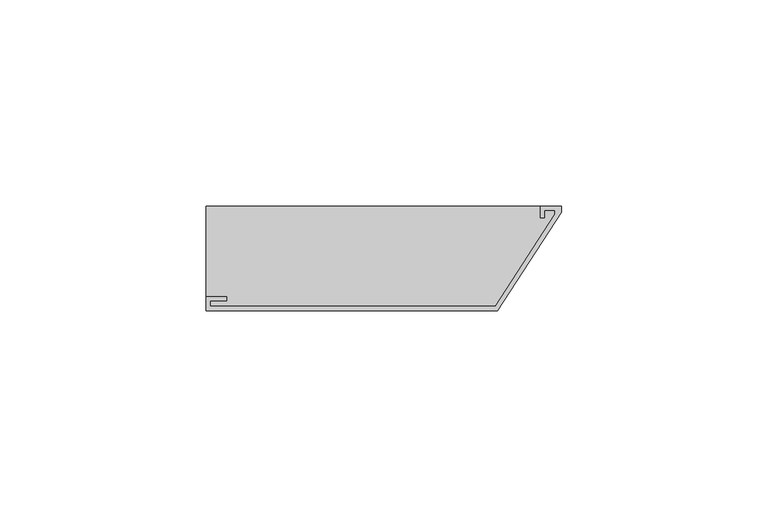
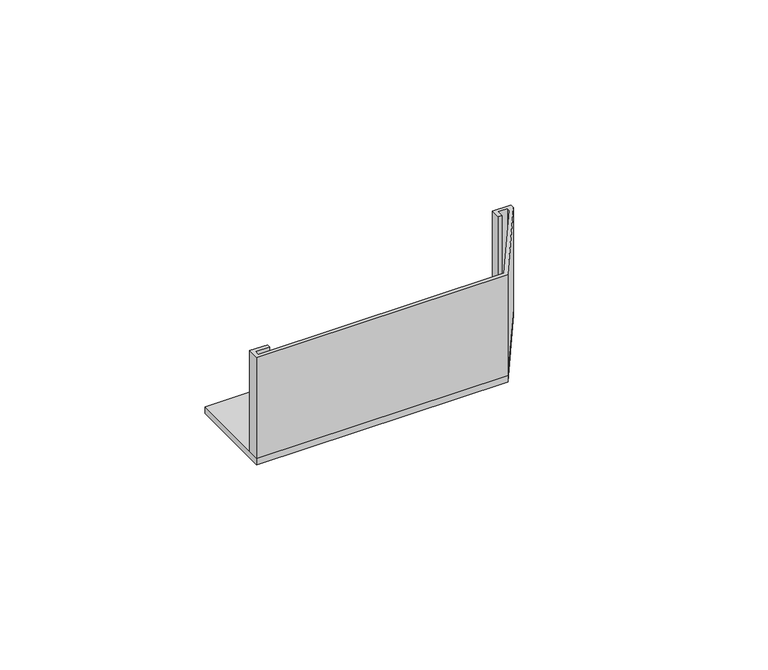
"""IFC4 building model written with IfcOpenShell, lengths in millimetres: proxy geometry, Zakonczenia cokolowe OPC2 : Zakonczenia cokolowe OPC2."""

import ifcopenshell
import ifcopenshell.guid

model = None  # the IFC model being written
_history = None  # IfcOwnerHistory: only IFC2X3 demands one
_inside = {}  # id of a spatial element -> (the spatial element, [elements in it])
_under = {}  # id of a project, library or spatial element -> (it, [spatial elements below it])
_declared = {}  # id of a project -> (the project, [libraries it declares])
_typed = {}  # id of a type object -> (the type object, [elements of that type])
_made_of = {}  # id of a material, layer set ... -> (it, [elements and type objects made of it])


def new_model(schema):
    """Start an empty IFC model of exactly this schema.

    Asked for "IFC4X3", IfcOpenShell would pick the latest addendum, in which some entities
    have other attributes; the version numbers below select the first issue.
    IFC2X3 requires an IfcOwnerHistory on every rooted entity: one is made here for all.
    """
    global model, _history
    if schema == "IFC4X3":
        model = ifcopenshell.file(schema_version=(4, 3, 0, 0))
    else:
        model = ifcopenshell.file(schema=schema)
    _inside.clear()
    _under.clear()
    _declared.clear()
    _typed.clear()
    _made_of.clear()
    _history = None
    if model.schema == "IFC2X3":
        org = make("IfcOrganization", Name="unknown")
        user = make(
            "IfcPersonAndOrganization",
            ThePerson=make("IfcPerson", FamilyName="unknown"),
            TheOrganization=org,
        )
        app = make(
            "IfcApplication",
            ApplicationDeveloper=org,
            Version="unknown",
            ApplicationFullName="unknown",
            ApplicationIdentifier="unknown",
        )
        _history = make(
            "IfcOwnerHistory",
            OwningUser=user,
            OwningApplication=app,
            ChangeAction="ADDED",
            CreationDate=0,
        )
    return model


def make(cls, **values):
    """One entity of the class cls with the attributes given. An attribute that is None is left unset."""
    return model.create_entity(
        cls, **{name: value for name, value in values.items() if value is not None}
    )


def rooted(cls, **values):
    """An entity with a GlobalId (a new one), such as an element, a storey or a relation."""
    return make(cls, GlobalId=ifcopenshell.guid.new(), OwnerHistory=_history, **values)


def si_unit(unit_type, name, prefix=None):
    """IfcSIUnit, for example si_unit("LENGTHUNIT", "METRE", prefix="MILLI")."""
    return make("IfcSIUnit", UnitType=unit_type, Prefix=prefix, Name=name)


def assignment(units):
    """IfcUnitAssignment: the units of a project."""
    return None if units is None else make("IfcUnitAssignment", Units=units)


def point(xyz):
    """IfcCartesianPoint."""
    return None if xyz is None else make("IfcCartesianPoint", Coordinates=xyz)


def direction(xyz):
    """IfcDirection."""
    return None if xyz is None else make("IfcDirection", DirectionRatios=xyz)


def frame(location, z_axis=None, x_axis=None):
    """IfcAxis2Placement3D, a coordinate frame: its origin and axes. An axis left out is left unset."""
    return make(
        "IfcAxis2Placement3D",
        Location=point(location),
        Axis=direction(z_axis),
        RefDirection=direction(x_axis),
    )


def origin():
    """The frame at (0, 0, 0) with its axes left unset."""
    return frame((0.0, 0.0, 0.0))


def origin_with_axes():
    """The frame at (0, 0, 0) with the z axis (0, 0, 1) and the x axis (1, 0, 0) written out."""
    return frame((0.0, 0.0, 0.0), z_axis=(0.0, 0.0, 1.0), x_axis=(1.0, 0.0, 0.0))


def place(relative_to, where):
    """IfcLocalPlacement: puts the frame where relative to a parent placement (None: the world)."""
    return make(
        "IfcLocalPlacement", PlacementRelTo=relative_to, RelativePlacement=where
    )


def context(
    kind, dimensions, precision=None, world=None, true_north=None, identifier=None
):
    """IfcGeometricRepresentationContext, for example the 3D "Model" context."""
    return make(
        "IfcGeometricRepresentationContext",
        ContextIdentifier=identifier,
        ContextType=kind,
        CoordinateSpaceDimension=dimensions,
        Precision=precision,
        WorldCoordinateSystem=world,
        TrueNorth=true_north,
    )


def project(units=None, contexts=None):
    """IfcProject with its units and contexts."""
    return rooted(
        "IfcProject",
        Name="project",
        RepresentationContexts=contexts,
        UnitsInContext=assignment(units),
    )


def spatial(cls, under=None, at=None, **own):
    """A site, building, storey or space (cls), placed at a placement, below another one or the project."""
    s = rooted(cls, ObjectPlacement=at, **own)
    if under is not None:
        _under.setdefault(under.id(), (under, []))[1].append(s)
    return s


def polyline(points):
    """IfcPolyline through the points."""
    return make("IfcPolyline", Points=[point(p) for p in points])


def outline(outer, holes=None, kind="AREA"):
    """IfcArbitraryClosedProfileDef: a profile drawn as a closed curve; with holes, ...WithVoids."""
    if holes is None:
        return make("IfcArbitraryClosedProfileDef", ProfileType=kind, OuterCurve=outer)
    return make(
        "IfcArbitraryProfileDefWithVoids",
        ProfileType=kind,
        OuterCurve=outer,
        InnerCurves=holes,
    )


def extrude(swept, where, along, depth):
    """IfcExtrudedAreaSolid: the profile swept, set in the frame where, extruded along a direction by depth."""
    return make(
        "IfcExtrudedAreaSolid",
        SweptArea=swept,
        Position=where,
        ExtrudedDirection=direction(along),
        Depth=depth,
    )


def shape(context_of_items, identifier, shape_type, items):
    """IfcShapeRepresentation: the items that make up one representation, for example the "Body"."""
    return make(
        "IfcShapeRepresentation",
        ContextOfItems=context_of_items,
        RepresentationIdentifier=identifier,
        RepresentationType=shape_type,
        Items=items,
    )


def source(mapping_origin, context_of_items, identifier, shape_type, items):
    """IfcRepresentationMap: a shape defined once, which mapped items show again and again."""
    return make(
        "IfcRepresentationMap",
        MappingOrigin=mapping_origin,
        MappedRepresentation=shape(context_of_items, identifier, shape_type, items),
    )


def transform(
    local_origin,
    x_axis=None,
    y_axis=None,
    z_axis=None,
    scale=None,
    scale2=None,
    scale3=None,
    uniform=True,
):
    """IfcCartesianTransformationOperator3D, or its non-uniform kind. x_axis, y_axis, z_axis: its Axis1, 2, 3."""
    if uniform:
        return make(
            "IfcCartesianTransformationOperator3D",
            Axis1=direction(x_axis),
            Axis2=direction(y_axis),
            LocalOrigin=point(local_origin),
            Scale=scale,
            Axis3=direction(z_axis),
        )
    return make(
        "IfcCartesianTransformationOperator3DnonUniform",
        Axis1=direction(x_axis),
        Axis2=direction(y_axis),
        LocalOrigin=point(local_origin),
        Scale=scale,
        Axis3=direction(z_axis),
        Scale2=scale2,
        Scale3=scale3,
    )


def mapped(mapping_source, mapping_target):
    """IfcMappedItem: shows the shape of a source again, moved by a transform."""
    return make(
        "IfcMappedItem", MappingSource=mapping_source, MappingTarget=mapping_target
    )


def made_of(thing, what):
    """Note that an element or type object is made of a material, layer set ...; save() writes the relation."""
    if what is not None:
        _made_of.setdefault(what.id(), (what, []))[1].append(thing)
    return thing


def element(
    cls,
    number,
    at=None,
    inside=None,
    cuts=None,
    type_object=None,
    material=None,
    context=None,
    identifier="Body",
    shape_type=None,
    held_by="IfcProductDefinitionShape",
    body=None,
    shapes=None,
    **own,
):
    """One element of the class cls, such as IfcWall. Its Tag is "e" and its number.

    at: its placement. inside: the storey or other place that contains it. cuts: it is an
    opening in that element (IfcRelVoidsElement). A single representation is given by context,
    identifier, shape_type and body (its items); several are given by shapes. held_by: the class
    of the entity that holds the representations. save() writes the other relations.
    """
    e = rooted(cls, Tag="e%d" % number, ObjectPlacement=at, **own)
    if body is not None:
        shapes = [shape(context, identifier, shape_type, body)]
    if shapes is not None:
        e.Representation = make(held_by, Representations=shapes)
    if inside is not None:
        _inside.setdefault(inside.id(), (inside, []))[1].append(e)
    if cuts is not None:
        rooted(
            "IfcRelVoidsElement", RelatingBuildingElement=cuts, RelatedOpeningElement=e
        )
    if type_object is not None:
        _typed.setdefault(type_object.id(), (type_object, []))[1].append(e)
    return made_of(e, material)


def aggregate(whole, parts):
    """IfcRelAggregates: a whole, such as a stair, and the parts it consists of."""
    return rooted("IfcRelAggregates", RelatingObject=whole, RelatedObjects=parts)


def save(model, path):
    """Write the relations noted so far, then the file.

    IfcRelAggregates (storeys below a building ...), IfcRelContainedInSpatialStructure (elements
    in a storey), IfcRelDefinesByType, IfcRelAssociatesMaterial and IfcRelDeclares: one each for
    every whole, place, type object, material and project.
    """
    for whole, parts in _under.values():
        aggregate(whole, parts)
    for where, things in _inside.values():
        rooted(
            "IfcRelContainedInSpatialStructure",
            RelatedElements=things,
            RelatingStructure=where,
        )
    for kind, things in _typed.values():
        rooted("IfcRelDefinesByType", RelatedObjects=things, RelatingType=kind)
    for what, things in _made_of.values():
        rooted("IfcRelAssociatesMaterial", RelatedObjects=things, RelatingMaterial=what)
    for by, libraries in _declared.values():
        rooted("IfcRelDeclares", RelatingContext=by, RelatedDefinitions=libraries)
    model.write(path)


def generic_models_d03b9ba1(model_context):
    return source(origin(), model_context, "Body", "SweptSolid", [
        extrude(outline(polyline([(-16.0197434, 1.0), (-1.5612533, 23.3251109), (-1.5612533, 24.3), (-4.1482018, 24.3), (-4.1482018, 22.5465266), (-5.1482018, 22.5465266), (-5.1482018, 25.3), (0.0, 25.3), (0.0, 23.8961983), (-15.4759789, 0.0), (-86.1982018, 0.0), (-86.1982018, 3.4), (-81.1982018, 3.4), (-81.1982018, 2.4), (-85.1982018, 2.4), (-85.1982018, 1.0), (-16.0197434, 1.0)])), origin_with_axes(), (0.0, 0.0, 1.0), 30.0),
        extrude(outline(polyline([(0.0, 23.8961983), (-15.4759789, 0.0), (-86.1982018, 0.0), (-86.1982018, 25.3), (0.0, 25.3), (0.0, 23.8961983)])), frame((0.0, 0.0, -2.0), z_axis=(0.0, 0.0, 1.0), x_axis=(1.0, 0.0, 0.0)), (0.0, 0.0, 1.0), 2.0),
    ])


if __name__ == "__main__":
    model = new_model("IFC4")
    model_context = context("Model", 3, world=origin())
    ifc_project = project(units=[si_unit("LENGTHUNIT", "METRE", prefix="MILLI")], contexts=[model_context])
    site = spatial("IfcSite", under=ifc_project)
    building = spatial("IfcBuilding", under=site)
    placement = place(None, origin())
    generic_models_shape = generic_models_d03b9ba1(model_context)
    element("IfcBuildingElementProxy", 1, Name="Zakonczenia cokolowe OPC2 : Zakonczenia cokolowe OPC2", ObjectType="Zakonczenia cokolowe OPC2 : Zakonczenia cokolowe OPC2", at=placement, inside=building, context=model_context, shape_type="MappedRepresentation", body=[
        mapped(generic_models_shape, transform((0.0, 0.0, 0.0), x_axis=(1.0, 0.0, 0.0), y_axis=(0.0, 1.0, 0.0), z_axis=(0.0, 0.0, 1.0))),
    ])
    save(model, "model.ifc")
